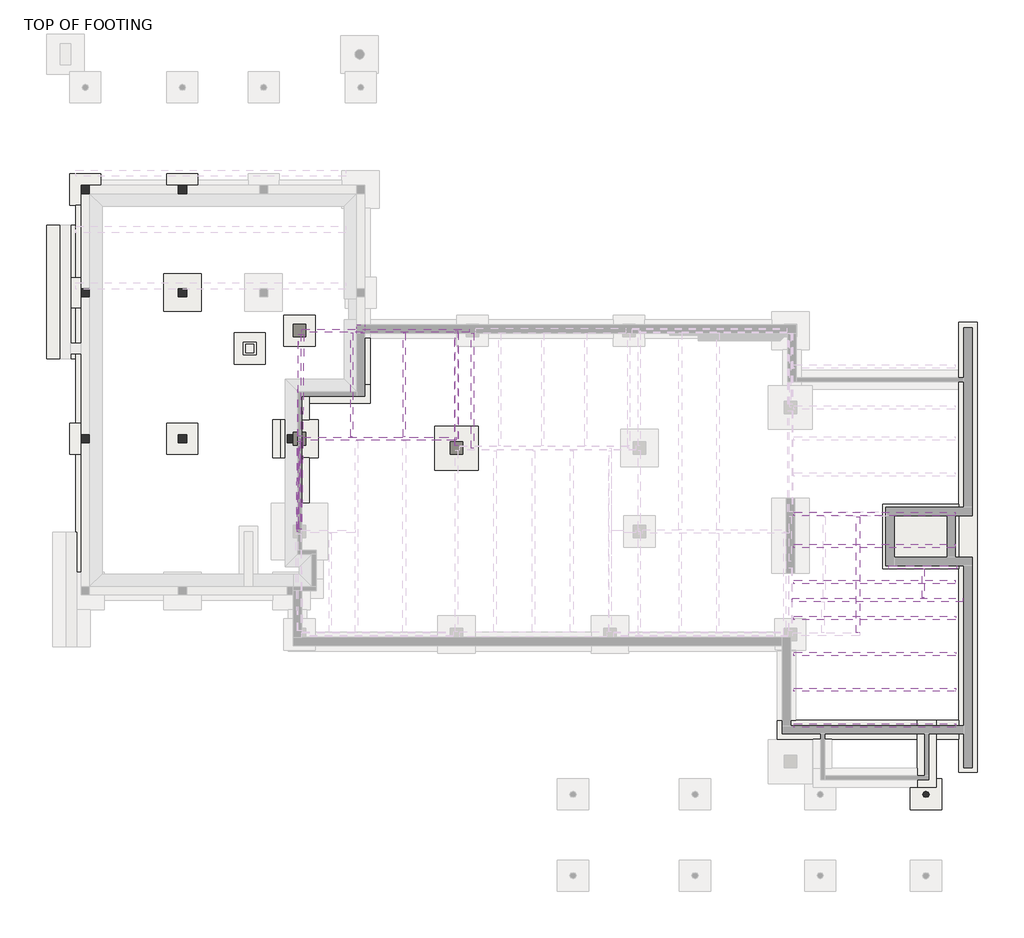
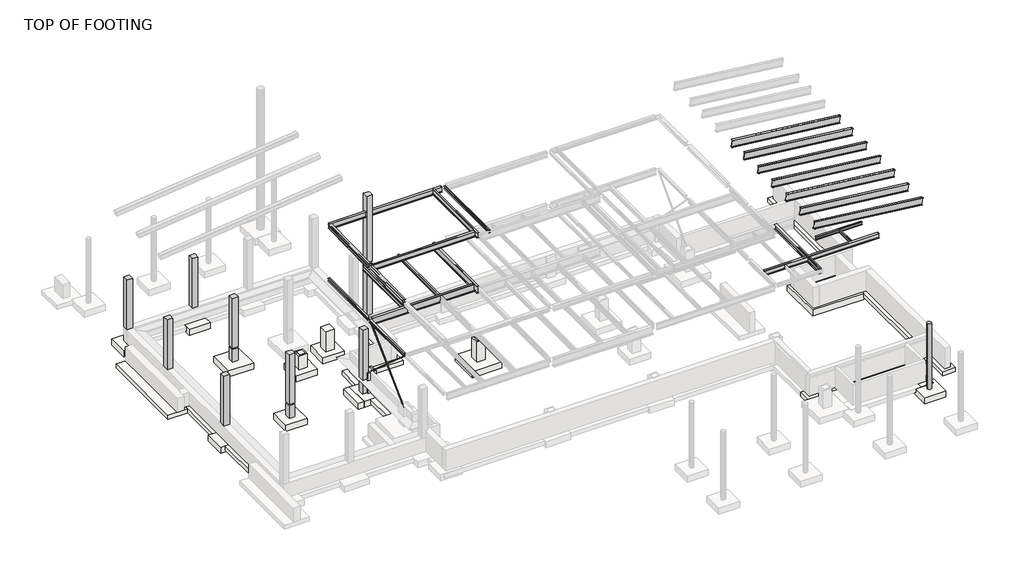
# One storey, part 3 of 4: 23 beams, 13 slabs, 9 columns, 8 footings, 2 members.
"""IFC4 building model written with IfcOpenShell, lengths in millimetres."""

from ifc_helpers import new_model, si_unit, point, frame, frame_2d, origin, place, context, project, spatial, polyline, circle_curve, trimmed, segment, composite_curve, outline, extrude, faceted_brep, transform, mapped, element, save
from components import w_wide_flange_w10x12_2b4455fd, w_wide_flange_w10x49_85831f45, w_wide_flange_w10x49_791f69d4, w_wide_flange_w12x14_94fda763, w_wide_flange_w14x30_e86b3798, w_wide_flange_w14x30_a3fd6266, w_wide_flange_w16x26_3658d20b, w_wide_flange_w16x26_a9c838cc, w_wide_flange_w16x26_811e96eb, w_wide_flange_w21x44_dd8e647a, w_wide_flange_w21x44_417b1038, w_wide_flange_w21x44_175405ae, w_wide_flange_w21x44_bf9ef094, w_wide_flange_w21x44_aedf4de2, w_wide_flange_w21x44_8a3b57d7, w_wide_flange_w21x44_bc81a974, w_wide_flange_w21x44_aeefe74e, w_wide_flange_w21x44_42aa095b, w_wide_flange_w8x10_6a41b71d, w_wide_flange_w8x10_f6404ef0, w_wide_flange_w8x18_62c2d6be, w_wide_flange_w8x18_57e2a91b, slab_df1ede25, slab_6d6a3403, footing_rectangular_with_pier_073162b1, footing_rectangular_with_pier_64681127, footing_rectangular_with_pier_b4053baf

model = new_model("IFC4")

# Units and contexts
model_context = context("Model", 3, world=origin())
ifc_project = project(units=[si_unit("LENGTHUNIT", "METRE", prefix="MILLI")], contexts=[model_context])

# Site, building, storey
site = spatial("IfcSite", under=ifc_project)
building = spatial("IfcBuilding", under=site)
storey = spatial("IfcBuildingStorey", under=building, Name="TOP OF FOOTING", Elevation=28905.2)

# Beams
placement = place(None, origin())
w_wide_flange_w10x12_shape = w_wide_flange_w10x12_2b4455fd(model_context)
element("IfcBeam", 1, ObjectType="W-Wide Flange : W10X12", at=placement, inside=storey, context=model_context, shape_type="MappedRepresentation", body=[
    mapped(w_wide_flange_w10x12_shape, transform((-5235.678794, 5212.7570005, 34253.551), x_axis=(0.0, -1.0, 0.0), y_axis=(1.0, 0.0, 0.0), z_axis=(0.0, 0.0, 1.0))),
])
w_wide_flange_w10x49_shape = w_wide_flange_w10x49_85831f45(model_context)
element("IfcBeam", 2, ObjectType="W-Wide Flange : W10X49", at=placement, inside=storey, context=model_context, shape_type="MappedRepresentation", body=[
    mapped(w_wide_flange_w10x49_shape, transform((-10329.1914876, 323.1484491, 38341.3), x_axis=(0.010666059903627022, 0.9999431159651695, 0.0), y_axis=(-0.9999431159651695, 0.010666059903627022, 0.0), z_axis=(0.0, 0.0, 1.0))),
])
w_wide_flange_w10x49_2_shape = w_wide_flange_w10x49_791f69d4(model_context)
element("IfcBeam", 3, ObjectType="W-Wide Flange : W10X49", at=placement, inside=storey, context=model_context, shape_type="MappedRepresentation", body=[
    mapped(w_wide_flange_w10x49_2_shape, transform((-10277.0536, 5211.0754143, 38341.3), x_axis=(0.010666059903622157, 0.9999431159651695, 0.0), y_axis=(-0.9999431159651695, 0.010666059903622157, 0.0), z_axis=(0.0, 0.0, 1.0))),
])
w_wide_flange_w12x14_shape = w_wide_flange_w12x14_94fda763(model_context)
element("IfcBeam", 4, ObjectType="W-Wide Flange : W12X14", at=placement, inside=storey, context=model_context, shape_type="MappedRepresentation", body=[
    mapped(w_wide_flange_w12x14_shape, transform((-7781.4996274, 5212.7570005, 34227.77), x_axis=(0.0, -1.0, 0.0), y_axis=(1.0, 0.0, 0.0), z_axis=(0.0, 0.0, 1.0))),
])
w_wide_flange_w14x30_shape = w_wide_flange_w14x30_e86b3798(model_context)
element("IfcBeam", 5, ObjectType="W-Wide Flange : W14X30", at=placement, inside=storey, context=model_context, shape_type="MappedRepresentation", body=[
    mapped(w_wide_flange_w14x30_shape, transform((16860.2045393, -4013.7929995, 34203.1339844), x_axis=(0.0, -1.0, 0.0), y_axis=(1.0, 0.0, 0.0), z_axis=(0.0, 0.0, 1.0))),
])
w_wide_flange_w14x30_2_shape = w_wide_flange_w14x30_a3fd6266(model_context)
element("IfcBeam", 6, ObjectType="W-Wide Flange : W14X30", at=placement, inside=storey, context=model_context, shape_type="MappedRepresentation", body=[
    mapped(w_wide_flange_w14x30_2_shape, transform((17765.6930355, -5266.3304995, 34203.1339844), x_axis=(1.0, 0.0, 0.0), y_axis=(0.0, 1.0, 0.0), z_axis=(0.0, 0.0, 1.0))),
])
w_wide_flange_w16x26_shape = w_wide_flange_w16x26_3658d20b(model_context)
element("IfcBeam", 7, ObjectType="W-Wide Flange : W16X26", at=placement, inside=storey, context=model_context, shape_type="MappedRepresentation", body=[
    mapped(w_wide_flange_w16x26_shape, transform((-6107.7454607, 7843.2445005, 38205.41), x_axis=(1.0, 0.0, 0.0), y_axis=(0.0, 1.0, 0.0), z_axis=(0.0, 0.0, 1.0))),
])
w_wide_flange_w16x26_2_shape = w_wide_flange_w16x26_a9c838cc(model_context)
element("IfcBeam", 8, ObjectType="W-Wide Flange : W16X26", at=placement, inside=storey, context=model_context, shape_type="MappedRepresentation", body=[
    mapped(w_wide_flange_w16x26_2_shape, transform((-6508.5892107, 2582.2695005, 38205.41), x_axis=(1.0, 0.0, 0.0), y_axis=(0.0, 1.0, 0.0), z_axis=(0.0, 0.0, 1.0))),
])
w_wide_flange_w16x26_3_shape = w_wide_flange_w16x26_811e96eb(model_context)
element("IfcBeam", 9, ObjectType="W-Wide Flange : W16X26", at=placement, inside=storey, context=model_context, shape_type="MappedRepresentation", body=[
    mapped(w_wide_flange_w16x26_3_shape, transform((-2689.8579607, 4984.1570005, 38268.91), x_axis=(0.0, 1.0, 0.0), y_axis=(-1.0, 0.0, 0.0), z_axis=(0.0, 0.0, 1.0))),
])
w_wide_flange_w21x44_shape = w_wide_flange_w21x44_dd8e647a(model_context)
element("IfcBeam", 10, ObjectType="W-Wide Flange : W21X44", at=placement, inside=storey, context=model_context, shape_type="MappedRepresentation", body=[
    mapped(w_wide_flange_w21x44_shape, transform((17638.6280266, -1084.8554995, 41130.9695852), x_axis=(0.993803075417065, 0.0, -0.1111550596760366), y_axis=(0.0, 1.0, 0.0), z_axis=(0.11115505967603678, 0.0, 0.9938030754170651))),
])
w_wide_flange_w21x44_2_shape = w_wide_flange_w21x44_417b1038(model_context)
element("IfcBeam", 11, ObjectType="W-Wide Flange : W21X44", at=placement, inside=storey, context=model_context, shape_type="MappedRepresentation", body=[
    mapped(w_wide_flange_w21x44_2_shape, transform((-6508.5892107, 2582.2695005, 34116.01), x_axis=(1.0, 0.0, 0.0), y_axis=(0.0, 1.0, 0.0), z_axis=(0.0, 0.0, 1.0))),
])
w_wide_flange_w21x44_3_shape = w_wide_flange_w21x44_175405ae(model_context)
element("IfcBeam", 12, ObjectType="W-Wide Flange : W21X44", at=placement, inside=storey, context=model_context, shape_type="MappedRepresentation", body=[
    mapped(w_wide_flange_w21x44_3_shape, transform((-2689.8579607, 4984.1570005, 34116.01), x_axis=(0.0, -1.0, 0.0), y_axis=(1.0, 0.0, 0.0), z_axis=(0.0, 0.0, 1.0))),
])
w_wide_flange_w21x44_4_shape = w_wide_flange_w21x44_bf9ef094(model_context)
element("IfcBeam", 13, ObjectType="W-Wide Flange : W21X44", at=placement, inside=storey, context=model_context, shape_type="MappedRepresentation", body=[
    mapped(w_wide_flange_w21x44_4_shape, transform((17644.6506444, -11391.7447247, 41130.2959664), x_axis=(0.9938030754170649, 0.0, -0.11115505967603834), y_axis=(0.0, 1.0000000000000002, 0.0), z_axis=(0.11115505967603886, 0.0, 0.9938030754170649))),
])
w_wide_flange_w21x44_5_shape = w_wide_flange_w21x44_aedf4de2(model_context)
element("IfcBeam", 14, ObjectType="W-Wide Flange : W21X44", at=placement, inside=storey, context=model_context, shape_type="MappedRepresentation", body=[
    mapped(w_wide_flange_w21x44_5_shape, transform((17643.3647414, -9643.1093406, 41130.4397923), x_axis=(0.9938030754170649, 0.0, -0.11115505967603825), y_axis=(0.0, 1.0, 0.0), z_axis=(0.11115505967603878, 0.0, 0.9938030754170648))),
])
w_wide_flange_w21x44_6_shape = w_wide_flange_w21x44_8a3b57d7(model_context)
element("IfcBeam", 15, ObjectType="W-Wide Flange : W21X44", at=placement, inside=storey, context=model_context, shape_type="MappedRepresentation", body=[
    mapped(w_wide_flange_w21x44_6_shape, transform((17642.0788384, -7894.4739565, 41130.5836182), x_axis=(0.9938030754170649, 0.0, -0.11115505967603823), y_axis=(0.0, 1.0, 0.0), z_axis=(0.11115505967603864, 0.0, 0.9938030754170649))),
])
w_wide_flange_w21x44_7_shape = w_wide_flange_w21x44_bc81a974(model_context)
element("IfcBeam", 16, ObjectType="W-Wide Flange : W21X44", at=placement, inside=storey, context=model_context, shape_type="MappedRepresentation", body=[
    mapped(w_wide_flange_w21x44_7_shape, transform((17640.7929353, -6145.8385724, 41130.7274441), x_axis=(0.9938030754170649, 0.0, -0.1111550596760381), y_axis=(0.0, 1.0, 0.0), z_axis=(0.1111550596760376, 0.0, 0.993803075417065))),
])
w_wide_flange_w21x44_8_shape = w_wide_flange_w21x44_aeefe74e(model_context)
element("IfcBeam", 17, ObjectType="W-Wide Flange : W21X44", at=placement, inside=storey, context=model_context, shape_type="MappedRepresentation", body=[
    mapped(w_wide_flange_w21x44_8_shape, transform((17639.5070323, -4397.2031883, 41130.87127), x_axis=(0.993803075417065, 0.0, -0.11115505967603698), y_axis=(0.0, 1.0, 0.0), z_axis=(0.11115505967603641, 0.0, 0.993803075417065))),
])
w_wide_flange_w21x44_9_shape = w_wide_flange_w21x44_42aa095b(model_context)
element("IfcBeam", 18, ObjectType="W-Wide Flange : W21X44", at=placement, inside=storey, context=model_context, shape_type="MappedRepresentation", body=[
    mapped(w_wide_flange_w21x44_9_shape, transform((17638.6179777, -2648.5678042, 41130.9707091), x_axis=(0.993803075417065, 0.0, -0.1111550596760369), y_axis=(0.0, 1.0000000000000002, 0.0), z_axis=(0.1111550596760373, 0.0, 0.9938030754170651))),
])
w_wide_flange_w8x10_shape = w_wide_flange_w8x10_6a41b71d(model_context)
element("IfcBeam", 19, ObjectType="W-Wide Flange : W8X10", at=placement, inside=storey, context=model_context, shape_type="MappedRepresentation", body=[
    mapped(w_wide_flange_w8x10_shape, transform((-1910.3954607, 4984.1570005, 38368.097), x_axis=(0.0, -1.0, 0.0), y_axis=(1.0, 0.0, 0.0), z_axis=(0.0, 0.0, 1.0))),
])
w_wide_flange_w8x10_2_shape = w_wide_flange_w8x10_f6404ef0(model_context)
element("IfcBeam", 20, ObjectType="W-Wide Flange : W8X10", at=placement, inside=storey, context=model_context, shape_type="MappedRepresentation", body=[
    mapped(w_wide_flange_w8x10_2_shape, transform((20035.2045393, -4470.9929995, 34278.697), x_axis=(0.0, 1.0, 0.0), y_axis=(-1.0, 0.0, 0.0), z_axis=(0.0, 0.0, 1.0))),
])
element("IfcBeam", 21, ObjectType="W-Wide Flange : W8X18", at=placement, inside=storey, context=model_context, shape_type="SweptSolid", body=[
    extrude(outline(composite_curve([segment(polyline([(34180.526, -10260.6454607), (34180.526, -10312.1439607)]), True, "CONTINUOUS"), segment(trimmed(circle_curve(frame_2d((34192.7815, -10312.1439607)), 12.2555), [point((34180.526, -10312.1439607))], [point((34192.7815, -10324.3994607))], True, "CARTESIAN"), True, "CONTINUOUS"), segment(polyline([(34192.7815, -10324.3994607), (34358.2625, -10324.3994607)]), True, "CONTINUOUS"), segment(trimmed(circle_curve(frame_2d((34358.2625, -10312.1439607)), 12.2555), [point((34358.2625, -10324.3994607))], [point((34370.518, -10312.1439607))], True, "CARTESIAN"), True, "CONTINUOUS"), segment(polyline([(34370.518, -10312.1439607), (34370.518, -10260.6454607), (34378.9, -10260.6454607), (34378.9, -10393.9954607), (34370.518, -10393.9954607), (34370.518, -10342.4969607)]), True, "CONTINUOUS"), segment(trimmed(circle_curve(frame_2d((34358.2625, -10342.4969607)), 12.2555), [point((34370.518, -10342.4969607))], [point((34358.2625, -10330.2414607))], True, "CARTESIAN"), True, "CONTINUOUS"), segment(polyline([(34358.2625, -10330.2414607), (34192.7815, -10330.2414607)]), True, "CONTINUOUS"), segment(trimmed(circle_curve(frame_2d((34192.7815, -10342.4969607)), 12.2555), [point((34192.7815, -10330.2414607))], [point((34180.526, -10342.4969607))], True, "CARTESIAN"), True, "CONTINUOUS"), segment(polyline([(34180.526, -10342.4969607), (34180.526, -10393.9954607), (34172.144, -10393.9954607), (34172.144, -10260.6454607), (34180.526, -10260.6454607)]), True, "CONTINUOUS")], self_intersect=False)), frame((0.0, -1820.3779639, 0.0), z_axis=(0.0, 1.0, 0.0), x_axis=(0.0, 0.0, 1.0)), (0.0, 0.0, 1.0), 4288.297855),
])
w_wide_flange_w8x18_shape = w_wide_flange_w8x18_62c2d6be(model_context)
element("IfcBeam", 22, ObjectType="W-Wide Flange : W8X18", at=placement, inside=storey, context=model_context, shape_type="MappedRepresentation", body=[
    mapped(w_wide_flange_w8x18_shape, transform((-10327.3204607, 5211.4620266, 34275.522), x_axis=(0.0, -1.0, 0.0), y_axis=(1.0, 0.0, 0.0), z_axis=(0.0, 0.0, 1.0))),
])
w_wide_flange_w8x18_2_shape = w_wide_flange_w8x18_57e2a91b(model_context)
element("IfcBeam", 23, ObjectType="W-Wide Flange : W8X18", at=placement, inside=storey, context=model_context, shape_type="MappedRepresentation", body=[
    mapped(w_wide_flange_w8x18_2_shape, transform((20017.7420393, -3675.6554995, 34275.522), x_axis=(1.0, 0.0, 0.0), y_axis=(0.0, 1.0, 0.0), z_axis=(0.0, 0.0, 1.0))),
])

# Columns
element("IfcColumn", 24, ObjectType="Concrete-Rectangular-Column : 16 x 16", at=placement, inside=storey, context=model_context, shape_type="Brep", body=[
    faceted_brep([(-20560.3454607, 14926.6695005, 33782.0), (-20560.3454607, 14520.2695005, 33782.0), (-20560.3454607, 14520.2695005, 29972.0), (-20560.3454607, 14926.6695005, 29972.0), (-20966.7454607, 14520.2695005, 33782.0), (-20966.7454607, 14520.2695005, 29972.0), (-20966.7454607, 14926.6695005, 33782.0), (-20966.7454607, 14926.6695005, 29972.0), (-20661.9454607, 14926.6695005, 33782.0)], [[[0, 1, 2, 3]], [[1, 4, 5, 2]], [[4, 6, 7, 5]], [[6, 8, 0, 3, 7]], [[1, 0, 8, 6, 4]], [[3, 2, 5, 7]]]),
])
element("IfcColumn", 25, ObjectType="Concrete-Rectangular-Column : 16 x 16", at=placement, inside=storey, context=model_context, shape_type="SweptSolid", body=[
    extrude(outline(polyline([(-15835.9454607, 14926.6695005), (-15835.9454607, 14520.2695005), (-16242.3454607, 14520.2695005), (-16242.3454607, 14926.6695005), (-15835.9454607, 14926.6695005)])), frame((0.0, 0.0, 29972.0), z_axis=(0.0, 0.0, 1.0), x_axis=(1.0, 0.0, 0.0)), (0.0, 0.0, 1.0), 3810.0),
])
element("IfcColumn", 26, ObjectType="Concrete-Rectangular-Column : 16 x 16", at=placement, inside=storey, context=model_context, shape_type="Brep", body=[
    faceted_brep([(-20560.3454607, 9897.4695005, 33782.0), (-20560.3454607, 9491.0695005, 33782.0), (-20560.3454607, 9491.0695005, 29972.0), (-20560.3454607, 9897.4695005, 29972.0), (-20661.9454607, 9491.0695005, 33782.0), (-20966.7454607, 9491.0695005, 33782.0), (-20966.7454607, 9491.0695005, 29972.0), (-20966.7454607, 9897.4695005, 33782.0), (-20966.7454607, 9897.4695005, 29972.0)], [[[0, 1, 2, 3]], [[1, 4, 5, 6, 2]], [[5, 7, 8, 6]], [[7, 0, 3, 8]], [[1, 0, 7, 5, 4]], [[3, 2, 6, 8]]]),
])
element("IfcColumn", 27, ObjectType="Concrete-Rectangular-Column : 16 x 16", at=placement, inside=storey, context=model_context, shape_type="Brep", body=[
    faceted_brep([(-15835.9454607, 9897.4695005, 28905.2), (-15835.9454607, 9491.0695005, 28905.2), (-16242.3454607, 9491.0695005, 28905.2), (-16242.3454607, 9897.4695005, 28905.2), (-15835.9454607, 9491.0695005, 29870.4), (-15835.9454607, 9897.4695005, 29870.4), (-16242.3454607, 9897.4695005, 29870.4), (-16242.3454607, 9491.0695005, 29870.4)], [[[0, 1, 2, 3]], [[4, 5, 6, 7]], [[1, 0, 5, 4]], [[2, 1, 4, 7]], [[3, 2, 7, 6]], [[0, 3, 6, 5]]]),
    faceted_brep([(-15835.9454607, 9897.4695005, 33782.0), (-15835.9454607, 9491.0695005, 33782.0), (-15835.9454607, 9491.0695005, 29972.0), (-15835.9454607, 9897.4695005, 29972.0), (-15886.7454607, 9491.0695005, 33782.0), (-16191.5454607, 9491.0695005, 33782.0), (-16242.3454607, 9491.0695005, 33782.0), (-16242.3454607, 9491.0695005, 29972.0), (-16242.3454607, 9897.4695005, 33782.0), (-16242.3454607, 9897.4695005, 29972.0)], [[[0, 1, 2, 3]], [[1, 4, 5, 6, 7, 2]], [[6, 8, 9, 7]], [[8, 0, 3, 9]], [[1, 0, 8, 6, 5, 4]], [[3, 2, 7, 9]]]),
])
element("IfcColumn", 28, ObjectType="Concrete-Rectangular-Column : 16 x 16", at=placement, inside=storey, context=model_context, shape_type="SweptSolid", body=[
    extrude(outline(polyline([(-20560.3454607, 2785.4695005), (-20560.3454607, 2379.0695005), (-20966.7454607, 2379.0695005), (-20966.7454607, 2785.4695005), (-20560.3454607, 2785.4695005)])), frame((0.0, 0.0, 29972.0), z_axis=(0.0, 0.0, 1.0), x_axis=(1.0, 0.0, 0.0)), (0.0, 0.0, 1.0), 3810.0),
])
element("IfcColumn", 29, ObjectType="Concrete-Rectangular-Column : 16 x 16", at=placement, inside=storey, context=model_context, shape_type="SweptSolid", body=[
    extrude(outline(polyline([(-10529.7763201, 2785.4695005), (-10529.7763201, 2379.0695005), (-10936.1763201, 2379.0695005), (-10936.1763201, 2785.4695005), (-10529.7763201, 2785.4695005)])), frame((0.0, 0.0, 28905.2), z_axis=(0.0, 0.0, 1.0), x_axis=(1.0, 0.0, 0.0)), (0.0, 0.0, 1.0), 965.2),
    extrude(outline(polyline([(-10529.7763201, 2785.4695005), (-10529.7763201, 2379.0695005), (-10936.1763201, 2379.0695005), (-10936.1763201, 2785.4695005), (-10529.7763201, 2785.4695005)])), frame((0.0, 0.0, 29972.0), z_axis=(0.0, 0.0, 1.0), x_axis=(1.0, 0.0, 0.0)), (0.0, 0.0, 1.0), 3810.0),
])
element("IfcColumn", 30, ObjectType="Concrete-Rectangular-Column : 16 x 16", at=placement, inside=storey, context=model_context, shape_type="SweptSolid", body=[
    extrude(outline(polyline([(-15835.9454607, 2785.4695005), (-15835.9454607, 2379.0695005), (-16242.3454607, 2379.0695005), (-16242.3454607, 2785.4695005), (-15835.9454607, 2785.4695005)])), frame((0.0, 0.0, 28905.2), z_axis=(0.0, 0.0, 1.0), x_axis=(1.0, 0.0, 0.0)), (0.0, 0.0, 1.0), 965.2),
    extrude(outline(polyline([(-15835.9454607, 2785.4695005), (-15835.9454607, 2379.0695005), (-16242.3454607, 2379.0695005), (-16242.3454607, 2785.4695005), (-15835.9454607, 2785.4695005)])), frame((0.0, 0.0, 29972.0), z_axis=(0.0, 0.0, 1.0), x_axis=(1.0, 0.0, 0.0)), (0.0, 0.0, 1.0), 3810.0),
])
element("IfcColumn", 31, ObjectType="Concrete-Rectangular-Column : 16 x 16", at=placement, inside=storey, context=model_context, shape_type="Brep", body=[
    faceted_brep([(-7149.1454607, 8132.1695005, 39622.9085937), (-7149.1454607, 7725.7695005, 39622.9085937), (-7149.1454607, 7725.7695005, 34544.0), (-7149.1454607, 7944.8445005, 34544.0), (-7149.1454607, 7944.8445005, 34378.9), (-7149.1454607, 7725.7695005, 34378.9), (-7149.1454607, 7725.7695005, 30480.0), (-7149.1454607, 8132.1695005, 30480.0), (-7149.1454607, 8132.1695005, 33782.0), (-7149.1454607, 8132.1695005, 34036.0), (-7149.1454607, 8132.1695005, 34239.2), (-7555.5454607, 7725.7695005, 39622.9085937), (-7555.5454607, 7725.7695005, 34544.0), (-7555.5454607, 8132.1695005, 39622.9085937), (-7555.5454607, 8132.1695005, 34239.2), (-7555.5454607, 8132.1695005, 34036.0), (-7555.5454607, 8132.1695005, 30480.0), (-7555.5454607, 7725.7695005, 30480.0), (-7555.5454607, 7725.7695005, 34378.9), (-7555.5454607, 7944.8445005, 34378.9), (-7555.5454607, 7944.8445005, 34544.0)], [[[0, 1, 2, 3, 4, 5, 6, 7, 8, 9, 10]], [[1, 11, 12, 2]], [[11, 13, 14, 15, 16, 17, 18, 19, 20, 12]], [[13, 0, 10, 9, 8, 7, 16, 15, 14]], [[1, 0, 13, 11]], [[7, 6, 17, 16]], [[4, 19, 18, 5]], [[20, 3, 2, 12]], [[19, 4, 3, 20]], [[17, 6, 5, 18]]]),
])
element("IfcColumn", 32, ObjectType="Concrete-Round-Column1 : 12\"", at=placement, inside=storey, context=model_context, shape_type="SweptSolid", body=[
    extrude(outline(composite_curve([segment(trimmed(circle_curve(frame_2d((20168.0462086, -14731.7497924)), 152.4), [point((20015.6462086, -14731.7497924))], [point((20320.4462086, -14731.7497924))], False, "CARTESIAN"), True, "CONTINUOUS"), segment(trimmed(circle_curve(frame_2d((20168.0462086, -14731.7497924)), 152.4), [point((20320.4462086, -14731.7497924))], [point((20015.6462086, -14731.7497924))], False, "CARTESIAN"), True, "CONTINUOUS")], self_intersect=False)), frame((0.0, 0.0, 28854.4), z_axis=(0.0, 0.0, 1.0), x_axis=(1.0, 0.0, 0.0)), (0.0, 0.0, 1.0), 5003.8),
])

# Footings
element("IfcFooting", 33, ObjectType="Bearing Footing - 36\" x 12\"", at=placement, inside=storey, context=model_context, shape_type="Brep", body=[
    faceted_brep([(21765.578935, 8249.5948911, 28905.2), (22679.978935, 8249.5948911, 28905.2), (22679.978935, 8249.5948911, 28600.4), (21765.578935, 8249.5948911, 28600.4), (22679.978935, -13661.0304995, 28905.2), (21765.578935, -13661.0304995, 28905.2), (21765.578935, -13661.0304995, 28600.4), (22679.978935, -13661.0304995, 28600.4), (21765.578935, 5909.6695005, 28905.2), (21765.578935, 4995.2695005, 28905.2), (21765.578935, -11127.3804995, 28905.2), (21765.578935, -12041.7804995, 28905.2), (21765.578935, -12041.7804995, 28600.4), (21765.578935, -11127.3804995, 28600.4), (21765.578935, 4995.2695005, 28600.4), (21765.578935, 5909.6695005, 28600.4)], [[[0, 1, 2, 3]], [[4, 5, 6, 7]], [[0, 8, 9, 10, 11, 5, 4, 1]], [[2, 1, 4, 7]], [[3, 2, 7, 6, 12, 13, 14, 15]], [[0, 3, 15, 14, 13, 12, 6, 5, 11, 10, 9, 8]]]),
])
element("IfcFooting", 34, ObjectType="Bearing Footing - 36\" x 12\"", at=placement, inside=storey, context=model_context, shape_type="Brep", body=[
    faceted_brep([(19749.4545393, -11127.3804995, 28905.2), (19749.4545393, -12041.7804995, 28905.2), (19749.4545393, -13470.5304995, 28905.2), (19749.4545393, -14384.9304995, 28905.2), (20663.8545393, -14384.9304995, 28905.2), (20663.8545393, -12041.7804995, 28905.2), (20663.8545393, -11127.3804995, 28905.2), (19749.4545393, -11127.3804995, 28600.4), (19749.4545393, -12041.7804995, 28600.4), (19749.4545393, -13470.5304995, 28600.4), (19749.4545393, -13969.7497924, 28600.4), (19749.4545393, -13969.7497924, 28854.4), (19749.4545393, -14384.9304995, 28854.4), (20663.8545393, -11127.3804995, 28600.4), (20663.8545393, -12041.7804995, 28600.4), (20663.8545393, -13969.7497924, 28600.4), (20663.8545393, -14384.9304995, 28854.4), (20663.8545393, -13969.7497924, 28854.4)], [[[0, 1, 2, 3, 4, 5, 6]], [[3, 2, 1, 0, 7, 8, 9, 10, 11, 12]], [[7, 13, 14, 15, 10, 9, 8]], [[6, 5, 4, 16, 17, 15, 14, 13]], [[0, 6, 13, 7]], [[4, 3, 12, 16]], [[11, 17, 16, 12]], [[17, 11, 10, 15]]]),
])
element("IfcFooting", 35, ObjectType="Bearing Footing - 36\" x 12\"", at=placement, inside=storey, context=model_context, shape_type="Brep", body=[
    faceted_brep([(19749.4545393, -12041.7804995, 28905.2), (19749.4545393, -11127.3804995, 28905.2), (13837.6045393, -11127.3804995, 28905.2), (12923.2045393, -11127.3804995, 28905.2), (12923.2045393, -12041.7804995, 28905.2), (14682.1545393, -12041.7804995, 28905.2), (15596.5545393, -12041.7804995, 28905.2), (19749.4545393, -12041.7804995, 28600.4), (12923.2045393, -12041.7804995, 28600.4), (14682.1545393, -12041.7804995, 28600.4), (15596.5545393, -12041.7804995, 28600.4), (19749.4545393, -11127.3804995, 28600.4), (12923.2045393, -11127.3804995, 28600.4), (13837.6045393, -11127.3804995, 28600.4)], [[[0, 1, 2, 3, 4, 5, 6]], [[7, 0, 6, 5, 4, 8, 9, 10]], [[11, 7, 10, 9, 8, 12, 13]], [[1, 11, 13, 12, 3, 2]], [[1, 0, 7, 11]], [[4, 3, 12, 8]]]),
    faceted_brep([(20663.8545393, -11127.3804995, 28905.2), (20663.8545393, -12041.7804995, 28905.2), (21765.578935, -12041.7804995, 28905.2), (21765.578935, -11127.3804995, 28905.2), (20663.8545393, -12041.7804995, 28600.4), (21765.578935, -12041.7804995, 28600.4), (20663.8545393, -11127.3804995, 28600.4), (21765.578935, -11127.3804995, 28600.4)], [[[0, 1, 2, 3]], [[1, 4, 5, 2]], [[4, 6, 7, 5]], [[6, 0, 3, 7]], [[1, 0, 6, 4]], [[3, 2, 5, 7]]]),
])
element("IfcFooting", 36, ObjectType="Bearing Footing - 36\" x 12\"", at=placement, inside=storey, context=model_context, shape_type="Brep", body=[
    faceted_brep([(-10784.5204607, -564.1554995, 28905.2), (-9870.1204607, -564.1554995, 28905.2), (-9870.1204607, 1667.8695005, 28905.2), (-10784.5204607, 1667.8695005, 28905.2), (-10784.5204607, -3396.2554995, 28905.2), (-10082.8454607, -3396.2554995, 28905.2), (-9870.1204607, -3396.2554995, 28905.2), (-9870.1204607, -3307.3554995, 28905.2), (-10784.5204607, -3307.3554995, 28905.2), (-10784.5204607, -564.1554995, 28625.8), (-10784.5204607, 1667.8695005, 28600.4), (-10784.5204607, -3396.2554995, 28600.4), (-10784.5204607, -3307.3554995, 28625.8), (-9870.1204607, -3396.2554995, 28600.4), (-10082.8454607, -3396.2554995, 28600.4), (-9870.1204607, 1667.8695005, 28600.4), (-9870.1204607, -2481.8554995, 28600.4), (-9870.1204607, -564.1554995, 28625.8), (-9870.1204607, -2481.8554995, 28625.8), (-9870.1204607, -3307.3554995, 28625.8)], [[[0, 1, 2, 3]], [[4, 5, 6, 7, 8]], [[9, 0, 3, 10, 11, 4, 8, 12]], [[13, 14, 11, 10, 15, 16]], [[1, 17, 18, 19, 7, 6, 13, 16, 15, 2]], [[1, 0, 9, 17]], [[3, 2, 15, 10]], [[6, 5, 4, 11, 14, 13]], [[8, 7, 19, 12]], [[17, 9, 12, 19, 18]]]),
    faceted_brep([(-9870.1204607, 5220.6945005, 28905.2), (-10784.5204607, 5220.6945005, 28905.2), (-10784.5204607, 3496.6695005, 28905.2), (-9870.1204607, 3496.6695005, 28905.2), (-9870.1204607, 4306.2945005, 28905.2), (-10784.5204607, 5220.6945005, 28600.4), (-10784.5204607, 3496.6695005, 28600.4), (-9870.1204607, 5220.6945005, 28600.4), (-9870.1204607, 4306.2945005, 28600.4), (-9870.1204607, 3496.6695005, 28600.4)], [[[0, 1, 2, 3, 4]], [[1, 5, 6, 2]], [[5, 7, 8, 9, 6]], [[7, 0, 4, 3, 9, 8]], [[3, 2, 6, 9]], [[1, 0, 7, 5]]]),
])
element("IfcFooting", 37, ObjectType="Bearing Footing - 36\" x 12\"", at=placement, inside=storey, context=model_context, shape_type="Brep", body=[
    faceted_brep([(-21220.7454607, -3907.4304995, 28905.2), (-20306.3454607, -3907.4304995, 28905.2), (-20306.3454607, 1820.2695005, 28905.2), (-21220.7454607, 1820.2695005, 28905.2), (-21220.7454607, -1964.3304995, 28905.2), (-21220.7454607, -3907.4304995, 28600.4), (-21220.7454607, 1820.2695005, 28600.4), (-21220.7454607, -1964.3304995, 28600.4), (-20306.3454607, -3907.4304995, 28600.4), (-20306.3454607, 1820.2695005, 28600.4)], [[[0, 1, 2, 3, 4]], [[5, 0, 4, 3, 6, 7]], [[8, 5, 7, 6, 9]], [[1, 8, 9, 2]], [[1, 0, 5, 8]], [[3, 2, 9, 6]]]),
    faceted_brep([(-21220.7454607, 3344.2695005, 28905.2), (-20306.3454607, 3344.2695005, 28905.2), (-20306.3454607, 8932.2695005, 28905.2), (-21220.7454607, 8932.2695005, 28905.2), (-21220.7454607, 6469.2695005, 28905.2), (-21220.7454607, 3344.2695005, 28600.4), (-21220.7454607, 8932.2695005, 28600.4), (-21220.7454607, 6469.2695005, 28600.4), (-20306.3454607, 3344.2695005, 28600.4), (-20306.3454607, 8932.2695005, 28600.4)], [[[0, 1, 2, 3, 4]], [[5, 0, 4, 3, 6, 7]], [[8, 5, 7, 6, 9]], [[1, 8, 9, 2]], [[1, 0, 5, 8]], [[3, 2, 9, 6]]]),
    faceted_brep([(-21220.7454607, 10456.2695005, 28905.2), (-20306.3454607, 10456.2695005, 28905.2), (-20306.3454607, 13961.4695005, 28905.2), (-21220.7454607, 13961.4695005, 28905.2), (-21220.7454607, 12968.7995005, 28905.2), (-21220.7454607, 10456.2695005, 28600.4), (-21220.7454607, 13961.4695005, 28600.4), (-21220.7454607, 12968.7995005, 28600.4), (-20306.3454607, 10456.2695005, 28600.4), (-20306.3454607, 13961.4695005, 28600.4)], [[[0, 1, 2, 3, 4]], [[5, 0, 4, 3, 6, 7]], [[8, 5, 7, 6, 9]], [[1, 8, 9, 2]], [[1, 0, 5, 8]], [[3, 2, 9, 6]]]),
])
element("IfcFooting", 38, ObjectType="Bearing Footing - 36\" x 12\"", at=placement, inside=storey, context=model_context, shape_type="Brep", body=[
    faceted_brep([(-6895.1454607, 4306.2945005, 28905.2), (-6895.1454607, 5220.6945005, 28905.2), (-7809.5454607, 5220.6945005, 28905.2), (-9870.1204607, 5220.6945005, 28905.2), (-9870.1204607, 4306.2945005, 28905.2), (-6895.1454607, 4306.2945005, 28600.4), (-9870.1204607, 4306.2945005, 28600.4), (-6895.1454607, 5220.6945005, 28600.4), (-9870.1204607, 5220.6945005, 28600.4), (-7809.5454607, 5220.6945005, 28600.4)], [[[0, 1, 2, 3, 4]], [[5, 0, 4, 6]], [[7, 5, 6, 8, 9]], [[1, 7, 9, 8, 3, 2]], [[4, 3, 8, 6]], [[1, 0, 5, 7]]]),
])
element("IfcFooting", 39, ObjectType="Bearing Footing - 36\" x 12\"", at=placement, inside=storey, context=model_context, shape_type="SweptSolid", body=[
    extrude(outline(polyline([(-7809.5454607, 7471.7695005), (-6895.1454607, 7471.7695005), (-6895.1454607, 5220.6945005), (-7809.5454607, 5220.6945005), (-7809.5454607, 7471.7695005)])), frame((0.0, 0.0, 28600.4), z_axis=(0.0, 0.0, 1.0), x_axis=(1.0, 0.0, 0.0)), (0.0, 0.0, 1.0), 304.8),
])
element("IfcFooting", 40, ObjectType="Bearing Footing - 72\" x 12\" 2", at=placement, inside=storey, context=model_context, shape_type="SweptSolid", body=[
    extrude(outline(polyline([(-22651.3734711, 6469.2695005), (-22651.3734711, 12968.7995005), (-21220.7454607, 12968.7995005), (-21220.7454607, 10456.2695005), (-21525.5454607, 10456.2695005), (-21525.5454607, 8932.2695005), (-21220.7454607, 8932.2695005), (-21220.7454607, 6469.2695005), (-22651.3734711, 6469.2695005)])), frame((0.0, 0.0, 28600.4), z_axis=(0.0, 0.0, 1.0), x_axis=(1.0, 0.0, 0.0)), (0.0, 0.0, 1.0), 304.8),
])

# Members
element("IfcMember", 41, ObjectType="HSS-Round Structural Tubing : HSS1.900X0.188", at=placement, inside=storey, context=model_context, shape_type="SweptSolid", body=[
    extrude(outline(composite_curve([segment(trimmed(circle_curve(frame_2d((0.0, -24.13)), 24.13), [point((0.0, -48.26))], [point((0.0, 0.0))], False, "CARTESIAN"), True, "CONTINUOUS"), segment(trimmed(circle_curve(frame_2d((0.0, -24.13)), 24.13), [point((0.0, 0.0))], [point((0.0, -48.26))], False, "CARTESIAN"), True, "CONTINUOUS")], self_intersect=False), holes=[composite_curve([segment(trimmed(circle_curve(frame_2d((0.0, -24.13)), 19.7104), [point((0.0, -4.4196))], [point((0.0, -43.8404))], True, "CARTESIAN"), True, "CONTINUOUS"), segment(trimmed(circle_curve(frame_2d((0.0, -24.13)), 19.7104), [point((0.0, -43.8404))], [point((0.0, -4.4196))], True, "CARTESIAN"), True, "CONTINUOUS")], self_intersect=False)]), frame((-10303.1904607, 2572.7327799, 30310.5869527), z_axis=(0.0, -0.7509228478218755, 0.6603899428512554), x_axis=(0.0, -0.6603899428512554, -0.7509228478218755)), (0.0, 0.0, 1.0), 5807.2512585),
])
element("IfcMember", 42, ObjectType="HSS-Round Structural Tubing : HSS1.900X0.188", at=placement, inside=storey, context=model_context, shape_type="SweptSolid", body=[
    extrude(outline(composite_curve([segment(trimmed(circle_curve(frame_2d((0.0, -24.1299999)), 24.13), [point((0.0, -48.26))], [point((0.0, 0.0))], False, "CARTESIAN"), True, "CONTINUOUS"), segment(trimmed(circle_curve(frame_2d((0.0, -24.1299999)), 24.13), [point((0.0, 0.0))], [point((0.0, -48.26))], False, "CARTESIAN"), True, "CONTINUOUS")], self_intersect=False), holes=[composite_curve([segment(trimmed(circle_curve(frame_2d((0.0, -24.1299999)), 19.7104), [point((0.0, -4.4195999))], [point((0.0, -43.8404))], True, "CARTESIAN"), True, "CONTINUOUS"), segment(trimmed(circle_curve(frame_2d((0.0, -24.1299999)), 19.7104), [point((0.0, -43.8404))], [point((0.0, -4.4195999))], True, "CARTESIAN"), True, "CONTINUOUS")], self_intersect=False)]), frame((-10447.6070235, -1924.7549291, 30310.6852673), z_axis=(0.016204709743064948, 0.7438669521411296, 0.6681312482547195), x_axis=(0.014551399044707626, 0.6679727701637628, -0.7440434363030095)), (0.0, 0.0, 1.0), 5739.9196756),
])

# Slabs
element("IfcSlab", 43, ObjectType="8\" Foundation Slab", at=placement, inside=storey, context=model_context, shape_type="SweptSolid", body=[
    extrude(outline(polyline([(18067.4486799, -605.4304995), (21758.3861799, -605.4304995), (21758.3861799, -3755.0304995), (18067.4486799, -3755.0304995), (18067.4486799, -605.4304995)])), frame((0.0, 0.0, 28448.0), z_axis=(0.0, 0.0, 1.0), x_axis=(1.0, 0.0, 0.0)), (0.0, 0.0, 1.0), 457.2),
])
element("IfcSlab", 44, ObjectType="Footing-Rectangular : 5'-0\" x 5'-0\" x 1'-6\"", at=placement, inside=storey, context=model_context, shape_type="Brep", body=[
    faceted_brep([(-20001.5454607, 3344.2695005, 28905.2), (-20306.3454607, 3344.2695005, 28905.2), (-21220.7454607, 3344.2695005, 28905.2), (-21525.5454607, 3344.2695005, 28905.2), (-21525.5454607, 1820.2695005, 28905.2), (-21220.7454607, 1820.2695005, 28905.2), (-20306.3454607, 1820.2695005, 28905.2), (-20001.5454607, 1820.2695005, 28905.2), (-20001.5454607, 3344.2695005, 28448.0), (-20001.5454607, 1820.2695005, 28448.0), (-21525.5454607, 1820.2695005, 28448.0), (-21525.5454607, 3344.2695005, 28448.0)], [[[0, 1, 2, 3, 4, 5, 6, 7]], [[8, 9, 10, 11]], [[3, 2, 1, 0, 8, 11]], [[4, 3, 11, 10]], [[7, 6, 5, 4, 10, 9]], [[0, 7, 9, 8]]]),
])
element("IfcSlab", 45, ObjectType="Footing-Rectangular : 5'-0\" x 5'-0\" x 1'-6\"", at=placement, inside=storey, context=model_context, shape_type="Brep", body=[
    faceted_brep([(-20001.5454607, 10456.2695005, 28905.2), (-20306.3454607, 10456.2695005, 28905.2), (-21220.7454607, 10456.2695005, 28905.2), (-21525.5454607, 10456.2695005, 28905.2), (-21525.5454607, 8932.2695005, 28905.2), (-21220.7454607, 8932.2695005, 28905.2), (-20306.3454607, 8932.2695005, 28905.2), (-20001.5454607, 8932.2695005, 28905.2), (-20001.5454607, 10456.2695005, 28448.0), (-20001.5454607, 8932.2695005, 28448.0), (-21525.5454607, 8932.2695005, 28448.0), (-21525.5454607, 10456.2695005, 28448.0), (-21525.5454607, 10456.2695005, 28600.4), (-21525.5454607, 8932.2695005, 28600.4)], [[[0, 1, 2, 3, 4, 5, 6, 7]], [[8, 9, 10, 11]], [[3, 2, 1, 0, 8, 11, 12]], [[4, 3, 12, 11, 10, 13]], [[7, 6, 5, 4, 13, 10, 9]], [[0, 7, 9, 8]]]),
])
element("IfcSlab", 46, ObjectType="Footing-Rectangular : 5'-0\" x 5'-0\" x 1'-6\"", at=placement, inside=storey, context=model_context, shape_type="Brep", body=[
    faceted_brep([(-15277.1454607, 15485.4695005, 28905.2), (-16801.1454607, 15485.4695005, 28905.2), (-16801.1454607, 15180.6695005, 28905.2), (-16801.1454607, 14266.2695005, 28905.2), (-16801.1454607, 13961.4695005, 28905.2), (-15277.1454607, 13961.4695005, 28905.2), (-15277.1454607, 14266.2695005, 28905.2), (-15277.1454607, 15180.6695005, 28905.2), (-15277.1454607, 15485.4695005, 28448.0), (-15277.1454607, 13961.4695005, 28448.0), (-16801.1454607, 13961.4695005, 28448.0), (-16801.1454607, 15485.4695005, 28448.0)], [[[0, 1, 2, 3, 4, 5, 6, 7]], [[8, 9, 10, 11]], [[1, 0, 8, 11]], [[4, 3, 2, 1, 11, 10]], [[5, 4, 10, 9]], [[0, 7, 6, 5, 9, 8]]]),
])
element("IfcSlab", 47, ObjectType="Footing-Rectangular : 5'-0\" x 5'-0\" x 1'-6\"", at=placement, inside=storey, context=model_context, shape_type="Brep", body=[
    faceted_brep([(-20001.5454607, 15485.4695005, 28905.2), (-21525.5454607, 15485.4695005, 28905.2), (-21525.5454607, 13961.4695005, 28905.2), (-21220.7454607, 13961.4695005, 28905.2), (-20306.3454607, 13961.4695005, 28905.2), (-20001.5454607, 13961.4695005, 28905.2), (-20001.5454607, 14266.2695005, 28905.2), (-20001.5454607, 15180.6695005, 28905.2), (-20001.5454607, 15485.4695005, 28448.0), (-20001.5454607, 13961.4695005, 28448.0), (-21525.5454607, 13961.4695005, 28448.0), (-21525.5454607, 15485.4695005, 28448.0)], [[[0, 1, 2, 3, 4, 5, 6, 7]], [[8, 9, 10, 11]], [[1, 0, 8, 11]], [[2, 1, 11, 10]], [[5, 4, 3, 2, 10, 9]], [[0, 7, 6, 5, 9, 8]]]),
])
element("IfcSlab", 48, ObjectType="Footing-Rectangular : 5'-0\" x 5'-0\" x 1'-6\"", at=placement, inside=storey, context=model_context, shape_type="Brep", body=[
    faceted_brep([(20930.0462086, -13969.7497924, 28854.4), (20663.8545393, -13969.7497924, 28854.4), (19749.4545393, -13969.7497924, 28854.4), (19406.0462086, -13969.7497924, 28854.4), (19406.0462086, -14384.9304995, 28854.4), (19406.0462086, -15493.7497924, 28854.4), (20930.0462086, -15493.7497924, 28854.4), (20930.0462086, -13969.7497924, 28397.2), (20930.0462086, -15493.7497924, 28397.2), (19406.0462086, -15493.7497924, 28397.2), (19406.0462086, -13969.7497924, 28397.2), (19406.0462086, -13969.7497924, 28600.4)], [[[0, 1, 2, 3, 4, 5, 6]], [[7, 8, 9, 10]], [[3, 2, 1, 0, 7, 10, 11]], [[5, 4, 3, 11, 10, 9]], [[6, 5, 9, 8]], [[0, 6, 8, 7]]]),
])
slab_shape = slab_df1ede25(model_context)
element("IfcSlab", 49, ObjectType="Footing-Rectangular : 5'-0\" x 5'-0\" x 1'-6\"", at=placement, inside=storey, context=model_context, shape_type="MappedRepresentation", body=[
    mapped(slab_shape, transform((-16039.1454607, 2582.2695005, 28905.2), x_axis=(1.0, 0.0, 0.0), y_axis=(0.0, 1.0, 0.0), z_axis=(0.0, 0.0, 1.0))),
])
element("IfcSlab", 50, ObjectType="Footing-Rectangular : 6'-0\" x 6'-0\" x 1'-6\"", at=placement, inside=storey, context=model_context, shape_type="SweptSolid", body=[
    extrude(outline(polyline([(-11647.3763201, 1667.8695005), (-11647.3763201, 3496.6695005), (-11241.7204607, 3496.6695005), (-11241.7204607, 1667.8695005), (-11647.3763201, 1667.8695005)])), frame((0.0, 0.0, 28448.0), z_axis=(0.0, 0.0, 1.0), x_axis=(1.0, 0.0, 0.0)), (0.0, 0.0, 1.0), 457.2),
])
slab_2_shape = slab_6d6a3403(model_context)
element("IfcSlab", 51, ObjectType="Footing-Rectangular : 6'-0\" x 6'-0\" x 1'-6\"", at=placement, inside=storey, context=model_context, shape_type="MappedRepresentation", body=[
    mapped(slab_2_shape, transform((-16039.1454607, 9694.2695005, 28905.2), x_axis=(1.0, 0.0, 0.0), y_axis=(0.0, 1.0, 0.0), z_axis=(0.0, 0.0, 1.0))),
])
element("IfcSlab", 52, ObjectType="Footing-Rectangular_With_Pier : F3 - 6'-0\" x 6'-0\" x 1'-6\"", at=placement, inside=storey, context=model_context, shape_type="SolidModel", body=[
    extrude(outline(polyline([(-10022.5204607, 2887.0695005), (-10022.5204607, 2277.4695005), (-10632.1204607, 2277.4695005), (-10632.1204607, 2887.0695005), (-10022.5204607, 2887.0695005)])), frame((0.0, 0.0, 28905.2), z_axis=(0.0, 0.0, 1.0), x_axis=(1.0, 0.0, 0.0)), (0.0, 0.0, 1.0), 1549.4),
    faceted_brep([(-9412.9204607, 3496.6695005, 28905.2), (-9870.1204607, 3496.6695005, 28905.2), (-10784.5204607, 3496.6695005, 28905.2), (-11241.7204607, 3496.6695005, 28905.2), (-11241.7204607, 1667.8695005, 28905.2), (-10784.5204607, 1667.8695005, 28905.2), (-9870.1204607, 1667.8695005, 28905.2), (-9412.9204607, 1667.8695005, 28905.2), (-9412.9204607, 3496.6695005, 28448.0), (-9412.9204607, 1667.8695005, 28448.0), (-11241.7204607, 1667.8695005, 28448.0), (-11241.7204607, 3496.6695005, 28448.0)], [[[0, 1, 2, 3, 4, 5, 6, 7]], [[8, 9, 10, 11]], [[3, 2, 1, 0, 8, 11]], [[4, 3, 11, 10]], [[7, 6, 5, 4, 10, 9]], [[0, 7, 9, 8]]]),
    extrude(outline(polyline([(-10124.1204607, 2785.4695005), (-10124.1204607, 2379.0695005), (-10530.5204607, 2379.0695005), (-10530.5204607, 2785.4695005), (-10124.1204607, 2785.4695005)])), frame((0.0, 0.0, 30454.6), z_axis=(0.0, 0.0, 1.0), x_axis=(1.0, 0.0, 0.0)), (0.0, 0.0, 1.0), 25.4),
])
footing_rectangular_with_pier_shape = footing_rectangular_with_pier_073162b1(model_context)
element("IfcSlab", 53, ObjectType="Footing-Rectangular_With_Pier : F8 - 5'-0\" x 5'-0\" x 1'-6\" 2", at=placement, inside=storey, context=model_context, shape_type="MappedRepresentation", body=[
    mapped(footing_rectangular_with_pier_shape, transform((-12755.8779607, 6976.4695005, 28905.2), x_axis=(1.0, 0.0, 0.0), y_axis=(0.0, 1.0, 0.0), z_axis=(0.0, 0.0, 1.0))),
])
footing_rectangular_with_pier_2_shape = footing_rectangular_with_pier_64681127(model_context)
element("IfcSlab", 54, ObjectType="Footing-Rectangular_With_Pier : F6 - 7'-0\" x 7'-0\" x 1'-6\"", at=placement, inside=storey, context=model_context, shape_type="MappedRepresentation", body=[
    mapped(footing_rectangular_with_pier_2_shape, transform((-2689.8579607, 2125.0695005, 28905.2), x_axis=(1.0, 0.0, 0.0), y_axis=(0.0, 1.0, 0.0), z_axis=(0.0, 0.0, 1.0))),
])
footing_rectangular_with_pier_3_shape = footing_rectangular_with_pier_b4053baf(model_context)
element("IfcSlab", 55, ObjectType="Footing-Rectangular_With_Pier : F1 - 5'-0\" x 5'-0\" x 1'-6\"", at=placement, inside=storey, context=model_context, shape_type="MappedRepresentation", body=[
    mapped(footing_rectangular_with_pier_3_shape, transform((-10327.3204607, 7843.2445005, 28905.2), x_axis=(1.0, 0.0, 0.0), y_axis=(0.0, 1.0, 0.0), z_axis=(0.0, 0.0, 1.0))),
])

save(model, "model.ifc")
